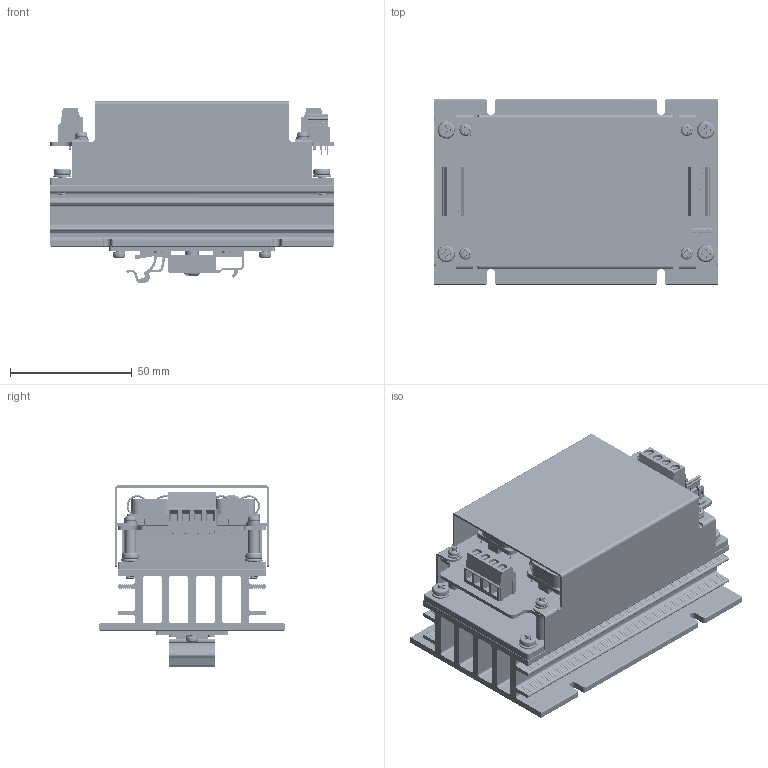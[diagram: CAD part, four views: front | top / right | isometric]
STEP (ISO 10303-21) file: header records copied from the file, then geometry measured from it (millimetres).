
FILE_DESCRIPTION (( 'STEP AP203' ), '1' );
FILE_NAME ('CQB150W-110S-CMFD+HD 2023.07.19.STEP', '2023-07-20T00:26:21', ( '' ), ( '' ), 'SwSTEP 2.0', 'SolidWorks 2020', '' );
FILE_SCHEMA (( 'CONFIG_CONTROL_DESIGN' ));
Products named in the file (1): CQB150W-110S-CMFD+HD 2023.07.19
Bounding box: 116.84 x 76.2 x 74.5 mm (x, y, z)
Volume: 182639.4 mm3; surface area: 124990.5 mm2
Topology: 15 solids, 28 shells, 3166 faces, 9653 edges, 6174 vertices
Faces by surface type: plane 1784, cylinder 715, bspline 418, cone 139, torus 72, sphere 38
Full cylindrical faces by diameter (mm): 0.5 x8, 0.8 x6, 0.9 x4, 1 x17, 1.15 x6, 1.2 x3, 1.4 x4, 1.5 x4, 1.65 x2, 1.8 x2, 2.5 x10, 2.8 x5, 3 x5, 3.2 x15, 3.25 x1, 3.8 x8, 3.9 x40, 4 x11, 4.3 x6, 4.445 x1, 4.5 x7, 4.7 x10, 5 x5, 5.4 x2, 7.8 x1, 8 x1, 8.8 x1, 12.6 x2
Entity records: 344702 total; most frequent: CARTESIAN_POINT 266863, ORIENTED_EDGE 17746, DIRECTION 13463, EDGE_CURVE 8873, VERTEX_POINT 5958, LINE 5019, VECTOR 5019, AXIS2_PLACEMENT_3D 4222
